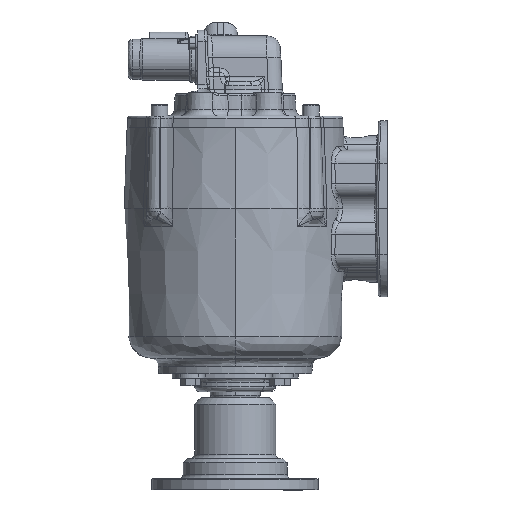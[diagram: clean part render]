
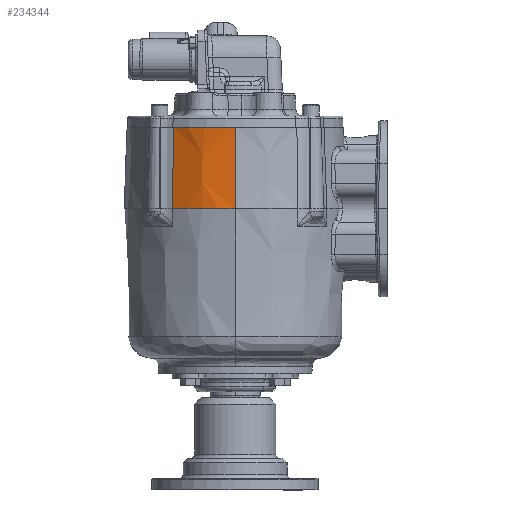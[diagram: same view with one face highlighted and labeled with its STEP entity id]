
A CAD part, left-side view. The second image highlights one B-rep face of the part: STEP entity #234344.
In plain terms, the highlighted conical face has half-angle 2 degrees and reference radius 78.232 mm.
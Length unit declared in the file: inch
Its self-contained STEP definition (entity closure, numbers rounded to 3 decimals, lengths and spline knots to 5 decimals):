
#3275 = CARTESIAN_POINT ( 'NONE',  ( -3.79389, 5.06598, 0. ) ) ;
#7117 = CARTESIAN_POINT ( 'NONE',  ( -4.10205, 4.26307, 2.2645 ) ) ;
#7645 = DIRECTION ( 'NONE',  ( -1., 0., 0. ) ) ;
#8922 = CARTESIAN_POINT ( 'NONE',  ( -3.71437, 5.04203, 2.2645 ) ) ;
#12750 = CONICAL_SURFACE ( 'NONE', #173701, 3.08, 0.035 ) ;
#18798 = CARTESIAN_POINT ( 'NONE',  ( -3.71437, 5.04203, 2.2645 ) ) ;
#24472 = CARTESIAN_POINT ( 'NONE',  ( -3.92248, 4.69471, 2.2645 ) ) ;
#25528 = VECTOR ( 'NONE', #88753, 39.37008 ) ;
#25905 = CARTESIAN_POINT ( 'NONE',  ( -4.08634, 4.31008, 2.2645 ) ) ;
#28575 = ORIENTED_EDGE ( 'NONE', *, *, #73090, .T. ) ;
#28698 = CARTESIAN_POINT ( 'NONE',  ( -4.21356, 3.80171, 2.2645 ) ) ;
#50327 = CARTESIAN_POINT ( 'NONE',  ( -4.21125, 3.81597, 2.2645 ) ) ;
#55083 = DIRECTION ( 'NONE',  ( 0., 0., -1. ) ) ;
#67677 = CARTESIAN_POINT ( 'NONE',  ( -4.19068, 3.93008, 2.2645 ) ) ;
#69093 = CARTESIAN_POINT ( 'NONE',  ( -3.75602, 4.98209, 2.2645 ) ) ;
#71921 = CARTESIAN_POINT ( 'NONE',  ( -4.13082, 4.17366, 2.2645 ) ) ;
#73090 = EDGE_CURVE ( 'NONE', #228384, #222943, #143343, .T. ) ;
#73839 = FACE_OUTER_BOUND ( 'NONE', #115030, .T. ) ;
#74418 = CARTESIAN_POINT ( 'NONE',  ( -1.25, 3.3296, 0. ) ) ;
#83921 = EDGE_CURVE ( 'NONE', #160610, #232934, #242889, .T. ) ;
#88753 = DIRECTION ( 'NONE',  ( -0.035, 0., -0.999 ) ) ;
#92127 = CARTESIAN_POINT ( 'NONE',  ( -3.71437, 5.04203, 2.2645 ) ) ;
#93532 = CARTESIAN_POINT ( 'NONE',  ( -3.90789, 4.72307, 2.2645 ) ) ;
#94074 = CARTESIAN_POINT ( 'NONE',  ( -1.25, 3.3296, 0. ) ) ;
#94943 = CARTESIAN_POINT ( 'NONE',  ( -4.10424, 4.25634, 2.2645 ) ) ;
#96201 = EDGE_CURVE ( 'NONE', #232934, #222943, #228962, .T. ) ;
#106627 = CARTESIAN_POINT ( 'NONE',  ( -3.74025, 5.04967, 1.53103 ) ) ;
#115030 = EDGE_LOOP ( 'NONE', ( #197490, #162649, #28575, #149799 ) ) ;
#130548 = CARTESIAN_POINT ( 'NONE',  ( -4.33, 3.3296, 0. ) ) ;
#138145 = CARTESIAN_POINT ( 'NONE',  ( -3.93275, 4.67436, 2.2645 ) ) ;
#142389 = CARTESIAN_POINT ( 'NONE',  ( -4.25092, 3.3296, 2.2645 ) ) ;
#143343 = B_SPLINE_CURVE_WITH_KNOTS ( 'NONE', 3,
 ( #18798, #106627, #216082, #280901 ),
 .UNSPECIFIED., .F., .F.,
 ( 4, 4 ),
 ( 0., 1. ),
 .UNSPECIFIED. ) ;
#149799 = ORIENTED_EDGE ( 'NONE', *, *, #96201, .F. ) ;
#149945 = B_SPLINE_CURVE_WITH_KNOTS ( 'NONE', 3,
 ( #92127, #69093, #246231, #179979, #93532, #24472, #178558, #138145, #181404, #267816, #266414, #224611, #182800, #25905, #201601, #7117, #94943, #269228, #264989, #71921, #159755, #67677, #247636, #155509, #50327, #225998, #28698, #204402, #277699, #142389 ),
 .UNSPECIFIED., .F., .F.,
 ( 4, 1, 1, 1, 1, 1, 2, 2, 1, 1, 1, 1, 1, 2, 2, 1, 1, 1, 1, 2, 2, 4 ),
 ( 0., 0.0625, 0.09375, 0.10937, 0.11719, 0.12109, 0.12305, 0.125, 0.1875, 0.21875, 0.23437, 0.24219, 0.24609, 0.24805, 0.25, 0.3125, 0.34375, 0.35937, 0.36719, 0.37109, 0.375, 0.5 ),
 .UNSPECIFIED. ) ;
#155509 = CARTESIAN_POINT ( 'NONE',  ( -4.20889, 3.83029, 2.2645 ) ) ;
#159755 = CARTESIAN_POINT ( 'NONE',  ( -4.16197, 4.06208, 2.2645 ) ) ;
#160610 = VERTEX_POINT ( 'NONE', #230280 ) ;
#162649 = ORIENTED_EDGE ( 'NONE', *, *, #200240, .F. ) ;
#163695 = DIRECTION ( 'NONE',  ( 0., -1., 0. ) ) ;
#173701 = AXIS2_PLACEMENT_3D ( 'NONE', #94074, #55083, #7645 ) ;
#178558 = CARTESIAN_POINT ( 'NONE',  ( -3.92969, 4.68047, 2.2645 ) ) ;
#179979 = CARTESIAN_POINT ( 'NONE',  ( -3.87794, 4.77936, 2.2645 ) ) ;
#181404 = CARTESIAN_POINT ( 'NONE',  ( -3.93479, 4.67028, 2.2645 ) ) ;
#182800 = CARTESIAN_POINT ( 'NONE',  ( -4.06439, 4.37233, 2.2645 ) ) ;
#197490 = ORIENTED_EDGE ( 'NONE', *, *, #83921, .F. ) ;
#200240 = EDGE_CURVE ( 'NONE', #228384, #160610, #149945, .T. ) ;
#201601 = CARTESIAN_POINT ( 'NONE',  ( -4.09689, 4.27877, 2.2645 ) ) ;
#204402 = CARTESIAN_POINT ( 'NONE',  ( -4.23872, 3.64208, 2.2645 ) ) ;
#210321 = CARTESIAN_POINT ( 'NONE',  ( -4.33, 3.3296, 0. ) ) ;
#216082 = CARTESIAN_POINT ( 'NONE',  ( -3.76676, 5.05766, 0.7762 ) ) ;
#222943 = VERTEX_POINT ( 'NONE', #3275 ) ;
#224611 = CARTESIAN_POINT ( 'NONE',  ( -4.01702, 4.49544, 2.2645 ) ) ;
#225998 = CARTESIAN_POINT ( 'NONE',  ( -4.2128, 3.80642, 2.2645 ) ) ;
#228384 = VERTEX_POINT ( 'NONE', #8922 ) ;
#228962 = CIRCLE ( 'NONE', #284050, 3.08 ) ;
#230280 = CARTESIAN_POINT ( 'NONE',  ( -4.25092, 3.3296, 2.2645 ) ) ;
#232934 = VERTEX_POINT ( 'NONE', #210321 ) ;
#234344 = ADVANCED_FACE ( 'NONE', ( #73839 ), #12750, .T. ) ;
#242889 = LINE ( 'NONE', #130548, #25528 ) ;
#246231 = CARTESIAN_POINT ( 'NONE',  ( -3.81506, 4.89016, 2.2645 ) ) ;
#247636 = CARTESIAN_POINT ( 'NONE',  ( -4.20314, 3.86363, 2.2645 ) ) ;
#264989 = CARTESIAN_POINT ( 'NONE',  ( -4.1064, 4.24965, 2.2645 ) ) ;
#266414 = CARTESIAN_POINT ( 'NONE',  ( -3.97049, 4.59854, 2.2645 ) ) ;
#267816 = CARTESIAN_POINT ( 'NONE',  ( -3.93578, 4.66831, 2.2645 ) ) ;
#269228 = CARTESIAN_POINT ( 'NONE',  ( -4.1057, 4.25184, 2.2645 ) ) ;
#273155 = DIRECTION ( 'NONE',  ( 0., 0., -1. ) ) ;
#277699 = CARTESIAN_POINT ( 'NONE',  ( -4.25092, 3.4863, 2.2645 ) ) ;
#280901 = CARTESIAN_POINT ( 'NONE',  ( -3.79389, 5.06598, 0. ) ) ;
#284050 = AXIS2_PLACEMENT_3D ( 'NONE', #74418, #273155, #163695 ) ;
